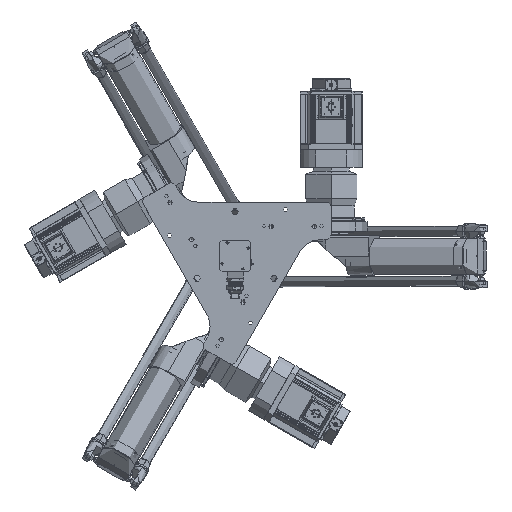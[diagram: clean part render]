
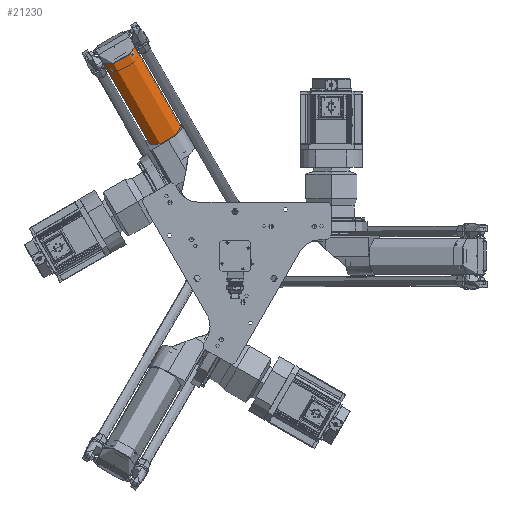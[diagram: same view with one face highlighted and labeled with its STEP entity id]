
A CAD part, top view. The second image highlights one B-rep face of the part: STEP entity #21230.
In plain terms, the highlighted cylindrical face has radius 37.5 mm (diameter 75 mm), a partial arc.
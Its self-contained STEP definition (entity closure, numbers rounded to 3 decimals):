
#518 = CARTESIAN_POINT ( 'NONE',  ( 37.5, 0., 243. ) ) ;
#15521 = DIRECTION ( 'NONE',  ( 0., 0., -1. ) ) ;
#16542 = CARTESIAN_POINT ( 'NONE',  ( -37.5, 0., 243. ) ) ;
#21230 = ADVANCED_FACE ( 'NONE', ( #149838 ), #124324, .T. ) ;
#33075 = VECTOR ( 'NONE', #112540, 1000. ) ;
#33780 = AXIS2_PLACEMENT_3D ( 'NONE', #129234, #37477, #48687 ) ;
#34466 = ORIENTED_EDGE ( 'NONE', *, *, #140540, .T. ) ;
#35188 = VERTEX_POINT ( 'NONE', #518 ) ;
#37477 = DIRECTION ( 'NONE',  ( 0., 0., -1. ) ) ;
#47660 = LINE ( 'NONE', #123283, #33075 ) ;
#48687 = DIRECTION ( 'NONE',  ( -1., 0., 0. ) ) ;
#50648 = DIRECTION ( 'NONE',  ( -1., 0., 0. ) ) ;
#58687 = ORIENTED_EDGE ( 'NONE', *, *, #96502, .F. ) ;
#61256 = CIRCLE ( 'NONE', #124199, 37.5 ) ;
#63867 = CARTESIAN_POINT ( 'NONE',  ( 0., 0., 0. ) ) ;
#64147 = CARTESIAN_POINT ( 'NONE',  ( 37.5, 0., 0. ) ) ;
#78136 = DIRECTION ( 'NONE',  ( 0., 0., -1. ) ) ;
#83676 = EDGE_LOOP ( 'NONE', ( #34466, #103413, #112666, #58687 ) ) ;
#96502 = EDGE_CURVE ( 'NONE', #150447, #128224, #132905, .T. ) ;
#103413 = ORIENTED_EDGE ( 'NONE', *, *, #111761, .T. ) ;
#111761 = EDGE_CURVE ( 'NONE', #35188, #136417, #47660, .T. ) ;
#112540 = DIRECTION ( 'NONE',  ( 0., 0., -1. ) ) ;
#112666 = ORIENTED_EDGE ( 'NONE', *, *, #135290, .F. ) ;
#113355 = DIRECTION ( 'NONE',  ( -1., 0., 0. ) ) ;
#120511 = DIRECTION ( 'NONE',  ( 0., 0., -1. ) ) ;
#123283 = CARTESIAN_POINT ( 'NONE',  ( 37.5, 0., 243. ) ) ;
#124199 = AXIS2_PLACEMENT_3D ( 'NONE', #63867, #120511, #50648 ) ;
#124324 = CYLINDRICAL_SURFACE ( 'NONE', #134566, 37.5 ) ;
#124590 = CARTESIAN_POINT ( 'NONE',  ( 0., 0., 243. ) ) ;
#128224 = VERTEX_POINT ( 'NONE', #133032 ) ;
#129234 = CARTESIAN_POINT ( 'NONE',  ( 0., 0., 243. ) ) ;
#132905 = LINE ( 'NONE', #16542, #143827 ) ;
#133032 = CARTESIAN_POINT ( 'NONE',  ( -37.5, 0., 0. ) ) ;
#134566 = AXIS2_PLACEMENT_3D ( 'NONE', #124590, #78136, #113355 ) ;
#135290 = EDGE_CURVE ( 'NONE', #128224, #136417, #61256, .T. ) ;
#136417 = VERTEX_POINT ( 'NONE', #64147 ) ;
#140540 = EDGE_CURVE ( 'NONE', #150447, #35188, #142750, .T. ) ;
#142495 = CARTESIAN_POINT ( 'NONE',  ( -37.5, 0., 243. ) ) ;
#142750 = CIRCLE ( 'NONE', #33780, 37.5 ) ;
#143827 = VECTOR ( 'NONE', #15521, 1000. ) ;
#149838 = FACE_OUTER_BOUND ( 'NONE', #83676, .T. ) ;
#150447 = VERTEX_POINT ( 'NONE', #142495 ) ;
